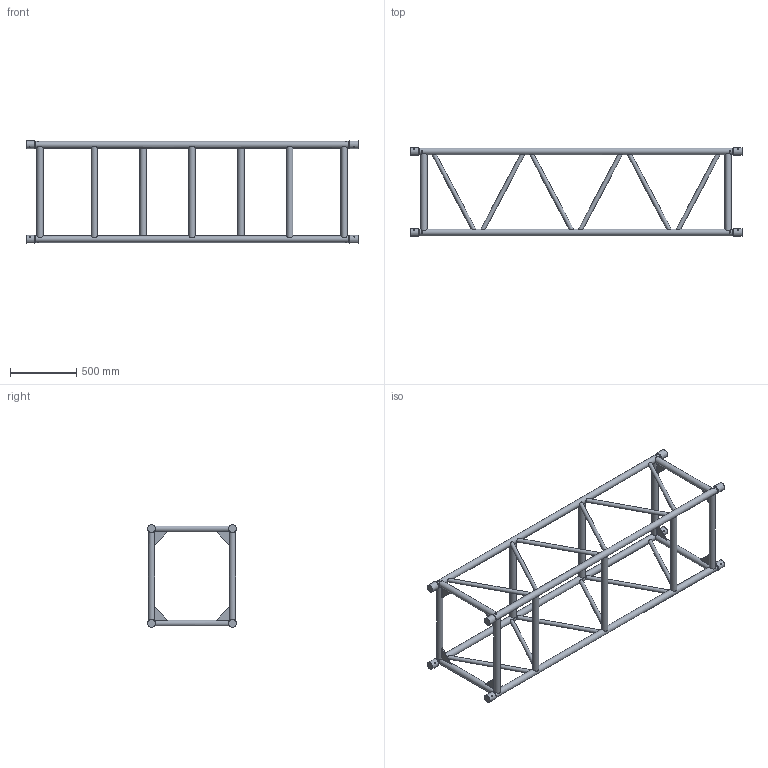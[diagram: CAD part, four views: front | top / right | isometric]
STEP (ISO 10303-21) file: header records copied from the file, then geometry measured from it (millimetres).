
FILE_DESCRIPTION(/* description */ (''),/* implementation_level */ '2;1');
FILE_NAME(/* name */ 'C:\Users\adrian.toca\Desktop\111110179.stp',/* time_stamp */ '2016-12-07T16:36:51+02:00',/* author */ ('adrian.toca'),/* organization */ (''),/* preprocessor_version */ 'ST-DEVELOPER v15.6',/* originating_system */ 'Autodesk Inventor 2015',/* authorisation */ '');
FILE_SCHEMA (('AUTOMOTIVE_DESIGN { 1 0 10303 214 3 1 1 }'));
Length unit declared in the file: millimetre
Products named in the file (1): 260031316
Bounding box: 2500 x 668.58 x 770.58 mm (x, y, z)
Volume: 40757370.8 mm3; surface area: 3645489 mm2
Topology: 1 solids, 1 shells, 241 faces, 629 edges, 388 vertices
Faces by surface type: plane 172, cylinder 61, cone 8
Full cylindrical faces by diameter (mm): 10 x8, 30 x12, 48.3 x9, 48.302 x4, 50 x4, 58.8 x8
Entity records: 9857 total; most frequent: CARTESIAN_POINT 4162, DIRECTION 1064, ORIENTED_EDGE 1032, EDGE_CURVE 508, AXIS2_PLACEMENT_3D 454, EDGE_LOOP 376, VERTEX_POINT 344, STYLED_ITEM 242
